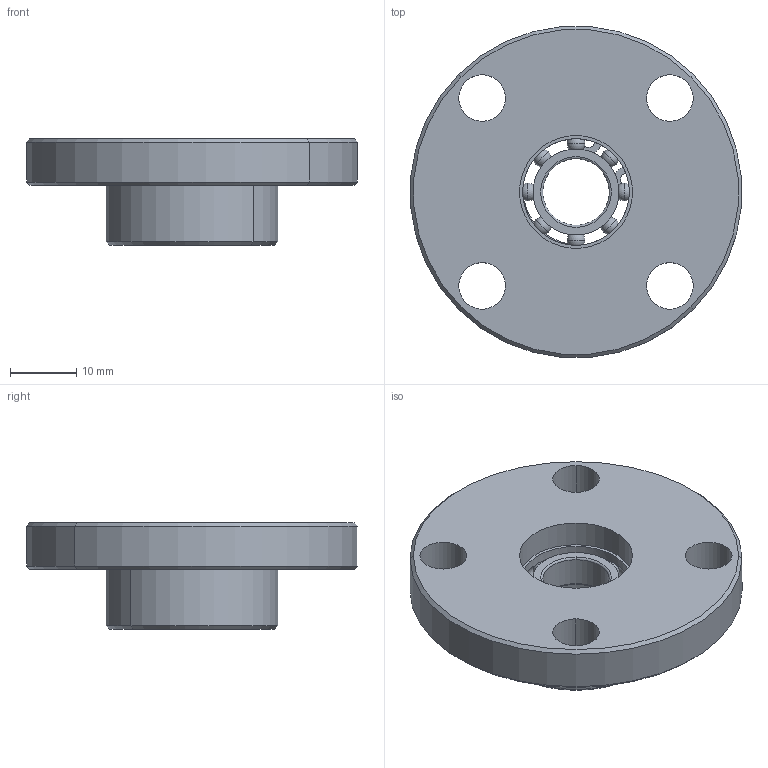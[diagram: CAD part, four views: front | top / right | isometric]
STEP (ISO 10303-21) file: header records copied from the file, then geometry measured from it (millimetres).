
FILE_DESCRIPTION (( 'STEP AP203' ), '1' );
FILE_NAME ('MJ0-FPL.STEP', '2024-01-05T14:01:50', ( '' ), ( '' ), 'SwSTEP 2.0', 'SolidWorks 2022', '' );
FILE_SCHEMA (( 'CONFIG_CONTROL_DESIGN' ));
Length unit declared in the file: millimetre
Products named in the file (1): MJ0-FPL
Bounding box: 49.81 x 49.81 x 16 mm (x, y, z)
Volume: 13822.7 mm3; surface area: 8192.5 mm2
Topology: 12 solids, 12 shells, 112 faces, 286 edges, 186 vertices
Faces by surface type: cylinder 44, torus 32, sphere 16, plane 14, cone 6
Entity records: 3283 total; most frequent: DIRECTION 662, CARTESIAN_POINT 521, ORIENTED_EDGE 492, AXIS2_PLACEMENT_3D 303, EDGE_CURVE 246, CIRCLE 190, VERTEX_POINT 162, EDGE_LOOP 134
